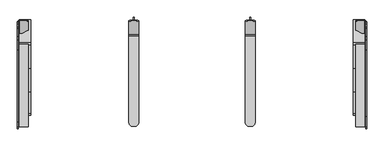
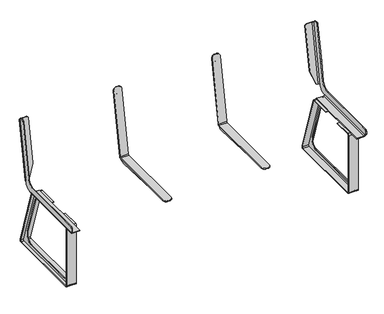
"""IFC4 building model written with IfcOpenShell, lengths in millimetres: furniture geometry, Roros Produkter - Trend - Bench - Backrest - 32982 : Roros Produkter - Trend - Bench - Backrest - 32982."""

from ifc_helpers import new_model, si_unit, point, frame, frame_2d, origin, place, context, project, spatial, polyline, circle_curve, trimmed, segment, composite_curve, outline, extrude, source, transform, mapped, element, save
from ifc_brep_helpers import plane_surface, cylinder_surface, revolved_surface, advanced_brep


def furniture_aa3bec5c(model_context):
    return source(origin(), model_context, "Body", "SolidModel", [
        advanced_brep(
        [(-277.8, 170.6061321, 420.4221109), (-277.8, 164.6972856, 415.464), (-277.8, -286.9117181, 415.464), (-277.8, -286.9117181, 411.464), (-277.8, 168.8927837, 411.464), (-277.8, 173.8168225, 415.5957591), (-277.8, 242.3218103, 804.1068511), (-277.8, 238.3825793, 804.8014438), (-327.8, 173.8168225, 415.5957591), (-327.8, 168.8927837, 411.464), (-327.8, -286.9117181, 411.464), (-327.8, -286.9117181, 415.464), (-327.8, 164.6972856, 415.464), (-327.8, 170.6061321, 420.4221109), (-327.8, 238.3825793, 804.8014438), (-327.8, 242.3218103, 804.1068511), (-307.8, 245.7947739, 823.8030062), (-297.8, 245.7947739, 823.8030062), (-297.8, 241.8555429, 824.4975989), (-307.8, 241.8555429, 824.4975989), (-307.8, -306.9117181, 415.464), (-297.8, -306.9117181, 415.464), (-297.8, -306.9117181, 411.464), (-307.8, -306.9117181, 411.464)],
        [
            (0, 1, circle_curve(frame((-277.8, 164.6972856, 421.464), z_axis=(-1.0, 0.0, 0.0), x_axis=(0.0, -1.0, 0.0)), 6.0)),
            (1, 2),
            (2, 3),
            (3, 4),
            (4, 5, circle_curve(frame((-277.8, 168.8927837, 416.464), z_axis=(1.0, 0.0, 0.0), x_axis=(0.0, 0.6427876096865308, -0.7660444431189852)), 5.0)),
            (5, 6),
            (6, 7),
            (7, 0),
            (8, 9, circle_curve(frame((-327.8, 168.8927837, 416.464), z_axis=(-1.0, 0.0, 0.0), x_axis=(0.0, 0.6427876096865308, -0.7660444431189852)), 5.0)),
            (9, 10),
            (10, 11),
            (11, 12),
            (12, 13, circle_curve(frame((-327.8, 164.6972856, 421.464), z_axis=(1.0, 0.0, 0.0), x_axis=(0.0, -1.0, 0.0)), 6.0)),
            (13, 14),
            (14, 15),
            (15, 8),
            (5, 8),
            (15, 16, circle_curve(frame((-307.8, 242.3218103, 804.1068511), z_axis=(0.0, 0.9848077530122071, -0.173648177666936), x_axis=(0.0, 0.173648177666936, 0.9848077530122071)), 20.0)),
            (16, 17),
            (17, 6, circle_curve(frame((-297.8, 242.3218103, 804.1068511), z_axis=(0.0, 0.9848077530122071, -0.173648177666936), x_axis=(0.0, 0.173648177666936, 0.9848077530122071)), 20.0)),
            (13, 0),
            (7, 18, circle_curve(frame((-297.8, 238.3825793, 804.8014438), z_axis=(0.0, -0.9848077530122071, 0.173648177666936), x_axis=(0.0, 0.173648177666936, 0.9848077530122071)), 20.0)),
            (18, 19),
            (19, 14, circle_curve(frame((-307.8, 238.3825793, 804.8014438), z_axis=(0.0, -0.9848077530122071, 0.173648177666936), x_axis=(0.0, 0.173648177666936, 0.9848077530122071)), 20.0)),
            (12, 1),
            (11, 20, circle_curve(frame((-307.8, -286.9117181, 415.464), z_axis=(0.0, 0.0, 1.0), x_axis=(1.0, 0.0, 0.0)), 20.0)),
            (20, 21),
            (21, 2, circle_curve(frame((-297.8, -286.9117181, 415.464), z_axis=(0.0, 0.0, 1.0), x_axis=(1.0, 0.0, 0.0)), 20.0)),
            (9, 4),
            (3, 22, circle_curve(frame((-297.8, -286.9117181, 411.464), z_axis=(0.0, 0.0, -1.0), x_axis=(1.0, 0.0, 0.0)), 20.0)),
            (22, 23),
            (23, 10, circle_curve(frame((-307.8, -286.9117181, 411.464), z_axis=(0.0, 0.0, -1.0), x_axis=(1.0, 0.0, 0.0)), 20.0)),
            (18, 17),
            (16, 19),
            (22, 21),
            (20, 23),
        ],
        [
            plane_surface(frame((-277.8, 211.9142087, 631.6567726), z_axis=(1.0000000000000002, 0.0, 0.0), x_axis=(0.0, 0.17364817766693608, 0.9848077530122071))),
            plane_surface(frame((-327.8, 211.9142087, 631.6567726), z_axis=(-1.0000000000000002, 0.0, 0.0), x_axis=(0.0, -0.17364817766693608, -0.9848077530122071))),
            plane_surface(frame((-277.8, 173.8168225, 415.5957591), z_axis=(0.0, 0.9848077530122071, -0.17364817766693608), x_axis=(-1.0, 0.0, 0.0))),
            plane_surface(frame((-277.8, 242.8199075, 829.9667823), z_axis=(0.0, -0.9848077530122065, 0.1736481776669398), x_axis=(-1.0, 0.0, 0.0))),
            revolved_surface(polyline([(-327.8, 158.6972856, 421.464), (-277.8, 158.6972856, 421.464)]), (-327.8, 164.6972856, 421.464), (-1.0, 0.0, 0.0)),
            plane_surface(frame((-277.8, 164.6972856, 415.464), z_axis=(0.0, 0.0, 1.0), x_axis=(-1.0, 0.0, 0.0))),
            plane_surface(frame((-277.8, -312.0803438, 411.464), z_axis=(0.0, 0.0, -1.0), x_axis=(-1.0, 0.0, 0.0))),
            cylinder_surface(frame((-327.8, 168.8927837, 416.464), z_axis=(1.0, 0.0, 0.0), x_axis=(0.0, 0.6427876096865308, -0.7660444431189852)), 5.0),
            plane_surface(frame((-297.8, 251.6807108, 822.7651567), z_axis=(0.0, 0.17364817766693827, 0.9848077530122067), x_axis=(0.0, -0.9848077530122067, 0.17364817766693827))),
            cylinder_surface(frame((-307.8, 231.891661, 805.9459679), z_axis=(0.0, -0.9848077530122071, 0.173648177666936), x_axis=(0.0, 0.173648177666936, 0.9848077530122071)), 20.0),
            cylinder_surface(frame((-297.8, 231.891661, 805.9459679), z_axis=(0.0, -0.9848077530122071, 0.173648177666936), x_axis=(0.0, 0.173648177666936, 0.9848077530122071)), 20.0),
            plane_surface(frame((-297.8, -306.9117181, 428.6260903), z_axis=(0.0, -1.0, 0.0), x_axis=(0.0, 0.0, -1.0))),
            cylinder_surface(frame((-307.8, -286.9117181, 406.264), z_axis=(0.0, 0.0, -1.0), x_axis=(1.0, 0.0, 0.0)), 20.0),
            cylinder_surface(frame((-297.8, -286.9117181, 406.264), z_axis=(0.0, 0.0, -1.0), x_axis=(1.0, 0.0, 0.0)), 20.0),
        ],
        [
            (0, [[1, 2, 3, 4, 5, 6, 7, 8]]),
            (1, [[9, 10, 11, 12, 13, 14, 15, 16]]),
            (2, [[17, -16, 18, 19, 20, -6]]),
            (3, [[21, -8, 22, 23, 24, -14]]),
            (4, [[-1, -21, -13, 25]]),
            (5, [[-25, -12, 26, 27, 28, -2]]),
            (6, [[29, -4, 30, 31, 32, -10]]),
            (7, [[-5, -29, -9, -17]]),
            (8, [[33, -19, 34, -23]]),
            (9, [[-34, -18, -15, -24]]),
            (10, [[-33, -22, -7, -20]]),
            (11, [[35, -27, 36, -31]]),
            (12, [[-36, -26, -11, -32]]),
            (13, [[-35, -30, -3, -28]]),
        ],
    ),
        advanced_brep(
        [(277.8, 173.8168225, 415.5957591), (277.8, 168.8927837, 411.464), (277.8, -286.9117181, 411.464), (277.8, -286.9117181, 415.464), (277.8, 164.6972856, 415.464), (277.8, 170.6061321, 420.4221109), (277.8, 238.3825793, 804.8014438), (277.8, 242.3218103, 804.1068511), (327.8, 170.6061321, 420.4221109), (327.8, 164.6972856, 415.464), (327.8, -286.9117181, 415.464), (327.8, -286.9117181, 411.464), (327.8, 168.8927837, 411.464), (327.8, 173.8168225, 415.5957591), (327.8, 242.3218103, 804.1068511), (327.8, 238.3825793, 804.8014438), (297.8, 245.7947739, 823.8030062), (307.8, 245.7947739, 823.8030062), (307.8, 241.8555429, 824.4975989), (297.8, 241.8555429, 824.4975989), (297.8, -306.9117181, 415.464), (307.8, -306.9117181, 415.464), (307.8, -306.9117181, 411.464), (297.8, -306.9117181, 411.464)],
        [
            (0, 1, circle_curve(frame((277.8, 168.8927837, 416.464), z_axis=(-1.0, 0.0, 0.0), x_axis=(0.0, 0.6427876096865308, -0.7660444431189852)), 5.0)),
            (1, 2),
            (2, 3),
            (3, 4),
            (4, 5, circle_curve(frame((277.8, 164.6972856, 421.464), z_axis=(1.0, 0.0, 0.0), x_axis=(0.0, -1.0, 0.0)), 6.0)),
            (5, 6),
            (6, 7),
            (7, 0),
            (8, 9, circle_curve(frame((327.8, 164.6972856, 421.464), z_axis=(-1.0, 0.0, 0.0), x_axis=(0.0, -1.0, 0.0)), 6.0)),
            (9, 10),
            (10, 11),
            (11, 12),
            (12, 13, circle_curve(frame((327.8, 168.8927837, 416.464), z_axis=(1.0, 0.0, 0.0), x_axis=(0.0, 0.6427876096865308, -0.7660444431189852)), 5.0)),
            (13, 14),
            (14, 15),
            (15, 8),
            (13, 0),
            (7, 16, circle_curve(frame((297.8, 242.3218103, 804.1068511), z_axis=(0.0, 0.9848077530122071, -0.173648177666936), x_axis=(0.0, 0.173648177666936, 0.9848077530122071)), 20.0)),
            (16, 17),
            (17, 14, circle_curve(frame((307.8, 242.3218103, 804.1068511), z_axis=(0.0, 0.9848077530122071, -0.173648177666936), x_axis=(0.0, 0.173648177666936, 0.9848077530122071)), 20.0)),
            (5, 8),
            (15, 18, circle_curve(frame((307.8, 238.3825793, 804.8014438), z_axis=(0.0, -0.9848077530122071, 0.173648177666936), x_axis=(0.0, 0.173648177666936, 0.9848077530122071)), 20.0)),
            (18, 19),
            (19, 6, circle_curve(frame((297.8, 238.3825793, 804.8014438), z_axis=(0.0, -0.9848077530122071, 0.173648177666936), x_axis=(0.0, 0.173648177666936, 0.9848077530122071)), 20.0)),
            (4, 9),
            (3, 20, circle_curve(frame((297.8, -286.9117181, 415.464), z_axis=(0.0, 0.0, 1.0), x_axis=(-1.0, 0.0, 0.0)), 20.0)),
            (20, 21),
            (21, 10, circle_curve(frame((307.8, -286.9117181, 415.464), z_axis=(0.0, 0.0, 1.0), x_axis=(-1.0, 0.0, 0.0)), 20.0)),
            (1, 12),
            (11, 22, circle_curve(frame((307.8, -286.9117181, 411.464), z_axis=(0.0, 0.0, -1.0), x_axis=(-1.0, 0.0, 0.0)), 20.0)),
            (22, 23),
            (23, 2, circle_curve(frame((297.8, -286.9117181, 411.464), z_axis=(0.0, 0.0, -1.0), x_axis=(-1.0, 0.0, 0.0)), 20.0)),
            (18, 17),
            (16, 19),
            (22, 21),
            (20, 23),
        ],
        [
            plane_surface(frame((277.8, 172.1067218, 412.6337778), z_axis=(-1.0, 0.0, 0.0), x_axis=(0.0, -0.7660444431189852, -0.6427876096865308))),
            plane_surface(frame((327.8, 172.1067218, 412.6337778), z_axis=(1.0, 0.0, 0.0), x_axis=(0.0, 0.7660444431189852, 0.6427876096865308))),
            plane_surface(frame((277.8, 246.7591385, 829.2721896), z_axis=(0.0, 0.9848077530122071, -0.17364817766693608), x_axis=(1.0, 0.0, 0.0))),
            plane_surface(frame((277.8, 170.6061321, 420.4221109), z_axis=(0.0, -0.9848077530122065, 0.1736481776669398), x_axis=(1.0, 0.0, 0.0))),
            revolved_surface(polyline([(327.8, 158.6972856, 421.464), (277.8, 158.6972856, 421.464)]), (327.8, 164.6972856, 421.464), (1.0, 0.0, 0.0)),
            plane_surface(frame((277.8, -312.0803438, 415.464), z_axis=(0.0, 0.0, 1.0), x_axis=(1.0, 0.0, 0.0))),
            plane_surface(frame((277.8, 168.8927837, 411.464), z_axis=(0.0, 0.0, -1.0), x_axis=(1.0, 0.0, 0.0))),
            cylinder_surface(frame((327.8, 168.8927837, 416.464), z_axis=(-1.0, 0.0, 0.0), x_axis=(0.0, 0.6427876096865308, -0.7660444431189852)), 5.0),
            plane_surface(frame((307.8, 251.6807108, 822.7651567), z_axis=(0.0, 0.17364817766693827, 0.9848077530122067), x_axis=(0.0, -0.9848077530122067, 0.17364817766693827))),
            cylinder_surface(frame((307.8, 231.891661, 805.9459679), z_axis=(0.0, -0.9848077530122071, 0.173648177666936), x_axis=(0.0, 0.173648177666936, 0.9848077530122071)), 20.0),
            cylinder_surface(frame((297.8, 231.891661, 805.9459679), z_axis=(0.0, -0.9848077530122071, 0.173648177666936), x_axis=(0.0, 0.173648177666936, 0.9848077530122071)), 20.0),
            plane_surface(frame((307.8, -306.9117181, 428.6260903), z_axis=(0.0, -1.0, 0.0), x_axis=(0.0, 0.0, -1.0))),
            cylinder_surface(frame((307.8, -286.9117181, 406.264), z_axis=(0.0, 0.0, -1.0), x_axis=(-1.0, 0.0, 0.0)), 20.0),
            cylinder_surface(frame((297.8, -286.9117181, 406.264), z_axis=(0.0, 0.0, -1.0), x_axis=(-1.0, 0.0, 0.0)), 20.0),
        ],
        [
            (0, [[1, 2, 3, 4, 5, 6, 7, 8]]),
            (1, [[9, 10, 11, 12, 13, 14, 15, 16]]),
            (2, [[17, -8, 18, 19, 20, -14]]),
            (3, [[21, -16, 22, 23, 24, -6]]),
            (4, [[-5, 25, -9, -21]]),
            (5, [[-25, -4, 26, 27, 28, -10]]),
            (6, [[29, -12, 30, 31, 32, -2]]),
            (7, [[-1, -17, -13, -29]]),
            (8, [[33, -19, 34, -23]]),
            (9, [[-33, -22, -15, -20]]),
            (10, [[-34, -18, -7, -24]]),
            (11, [[35, -27, 36, -31]]),
            (12, [[-35, -30, -11, -28]]),
            (13, [[-36, -26, -3, -32]]),
        ],
    ),
        extrude(outline(composite_curve([segment(trimmed(circle_curve(frame_2d((179.0736722, 396.147219)), 30.0), [point((208.7798444, 391.9587426))], [point((177.7650906, 366.1757724))], False, "CARTESIAN"), True, "CONTINUOUS"), segment(polyline([(177.7650906, 366.1757724), (-267.7841058, 385.6288704)]), True, "CONTINUOUS"), segment(trimmed(circle_curve(frame_2d((-266.9117181, 405.6098348)), 20.0), [point((-267.7841058, 385.6288704))], [point((-286.9117181, 405.6098348))], False, "CARTESIAN"), True, "CONTINUOUS"), segment(polyline([(-286.9117181, 405.6098348), (-286.9117181, 411.464), (-282.6167614, 411.464), (-80.2604266, 411.464), (168.8927837, 411.464)]), True, "CONTINUOUS"), segment(trimmed(circle_curve(frame_2d((168.8927837, 416.464)), 5.0), [point((168.8927837, 411.464))], [point((173.8168225, 415.5957591))], True, "CARTESIAN"), True, "CONTINUOUS"), segment(polyline([(173.8168225, 415.5957591), (211.9142087, 631.6567726), (237.5075996, 776.8041052), (243.3935365, 775.7662557)]), True, "CONTINUOUS"), segment(trimmed(circle_curve(frame_2d((239.9205729, 756.0701006)), 20.0), [point((243.3935365, 775.7662557))], [point((259.7246877, 753.277783))], False, "CARTESIAN"), True, "CONTINUOUS"), segment(polyline([(259.7246877, 753.277783), (208.7798444, 391.9587426)]), True, "CONTINUOUS")], self_intersect=False)), frame((300.6, 0.0, 0.0), z_axis=(1.0, 0.0, 0.0), x_axis=(0.0, 1.0, 0.0)), (0.0, 0.0, 1.0), 4.4),
        extrude(outline(composite_curve([segment(trimmed(circle_curve(frame_2d((179.0736722, 396.147219)), 30.0), [point((208.7798444, 391.9587426))], [point((177.7650906, 366.1757724))], False, "CARTESIAN"), True, "CONTINUOUS"), segment(polyline([(177.7650906, 366.1757724), (-267.7841058, 385.6288704)]), True, "CONTINUOUS"), segment(trimmed(circle_curve(frame_2d((-266.9117181, 405.6098348)), 20.0), [point((-267.7841058, 385.6288704))], [point((-286.9117181, 405.6098348))], False, "CARTESIAN"), True, "CONTINUOUS"), segment(polyline([(-286.9117181, 405.6098348), (-286.9117181, 411.464), (-282.6167614, 411.464), (-80.2604266, 411.464), (168.8927837, 411.464)]), True, "CONTINUOUS"), segment(trimmed(circle_curve(frame_2d((168.8927837, 416.464)), 5.0), [point((168.8927837, 411.464))], [point((173.8168225, 415.5957591))], True, "CARTESIAN"), True, "CONTINUOUS"), segment(polyline([(173.8168225, 415.5957591), (211.9142087, 631.6567726), (237.5075996, 776.8041052), (243.3935365, 775.7662557)]), True, "CONTINUOUS"), segment(trimmed(circle_curve(frame_2d((239.9205729, 756.0701006)), 20.0), [point((243.3935365, 775.7662557))], [point((259.7246877, 753.277783))], False, "CARTESIAN"), True, "CONTINUOUS"), segment(polyline([(259.7246877, 753.277783), (208.7798444, 391.9587426)]), True, "CONTINUOUS")], self_intersect=False)), frame((-305.0, 0.0, 0.0), z_axis=(1.0, 0.0, 0.0), x_axis=(0.0, 1.0, 0.0)), (0.0, 0.0, 1.0), 4.4),
        advanced_brep(
        [(904.0, -307.8308404, 421.464), (898.0, -307.8308404, 415.464), (853.0, -307.8308404, 415.464), (853.0, -307.8308404, 411.464), (898.0, -307.8308404, 411.464), (908.0, -307.8308404, 421.464), (908.0, -307.8308404, 421.664), (904.0, -307.8308404, 421.664), (908.0, 121.742304, 421.464), (898.0, 121.742304, 411.464), (853.0, 121.742304, 411.464), (853.0, 121.742304, 415.464), (898.0, 121.742304, 415.464), (904.0, 121.742304, 421.464), (904.0, 121.742304, 421.664), (908.0, 121.742304, 421.664), (904.0, -255.6830947, 457.464), (904.0, -307.8308404, 457.464), (908.0, -307.8308404, 457.464), (908.0, -255.6830947, 457.464), (904.0, -317.8308404, 447.464), (908.0, -317.8308404, 447.464), (904.0, -317.8308404, 431.664), (908.0, -317.8308404, 431.664), (904.0, 123.242304, 421.664), (908.0, 123.242304, 421.664), (904.0, 171.5252579, 461.3391091), (908.0, 171.5252579, 461.3391091), (904.0, 171.7857301, 462.8163208), (908.0, 171.7857301, 462.8163208), (904.0, 235.6598072, 825.064213), (904.0, 227.5482115, 836.6487723), (908.0, 227.5482115, 836.6487723), (908.0, 235.6598072, 825.064213), (904.0, 211.988249, 839.3924135), (908.0, 211.988249, 839.3924135), (904.0, 200.4036897, 831.2808178), (908.0, 200.4036897, 831.2808178), (904.0, 161.9252917, 613.0589787), (908.0, 161.9252917, 613.0589787), (904.0, 141.775105, 498.7815911), (908.0, 141.775105, 498.7815911), (904.0, 92.5347173, 457.464), (908.0, 92.5347173, 457.464), (898.0, 241.7656153, 823.9875943), (904.0, 235.8567688, 825.0294834), (908.0, 235.8567688, 825.0294834), (898.0, 245.7048463, 823.2930016), (863.0, 245.7048463, 823.2930016), (863.0, 241.7656153, 823.9875943), (898.0, 181.8307692, 461.0451093), (908.0, 171.9826917, 462.7815911), (904.0, 171.9826917, 462.7815911), (898.0, 177.8915382, 461.7397021), (892.7989561, 177.8915382, 461.7397021), (892.7989561, 181.8307692, 461.0451093), (853.0, 240.0291335, 814.1395168), (853.0, 193.8264376, 552.1110073), (853.6045066, 193.2318427, 548.7388923), (883.4034627, 179.0334251, 468.2156645), (853.0, 243.9683646, 813.4449241), (853.0, 197.7656686, 551.4164146), (883.4034627, 182.9726561, 467.5210718), (853.6045066, 197.1710737, 548.0442996)],
        [
            (0, 1, circle_curve(frame((898.0, -307.8308404, 421.464), z_axis=(0.0, 1.0, 0.0), x_axis=(-1.0, 0.0, 0.0)), 6.0)),
            (1, 2),
            (2, 3),
            (3, 4),
            (4, 5, circle_curve(frame((898.0, -307.8308404, 421.464), z_axis=(0.0, -1.0, 0.0), x_axis=(-1.0, 0.0, 0.0)), 10.0)),
            (5, 6),
            (6, 7),
            (7, 0),
            (8, 9, circle_curve(frame((898.0, 121.742304, 421.464), z_axis=(0.0, 1.0, 0.0), x_axis=(-1.0, 0.0, 0.0)), 10.0)),
            (9, 10),
            (10, 11),
            (11, 12),
            (12, 13, circle_curve(frame((898.0, 121.742304, 421.464), z_axis=(0.0, -1.0, 0.0), x_axis=(-1.0, 0.0, 0.0)), 6.0)),
            (13, 14),
            (14, 15),
            (15, 8),
            (4, 9),
            (8, 5),
            (3, 10),
            (2, 11),
            (1, 12),
            (0, 13),
            (16, 17),
            (17, 18),
            (18, 19),
            (19, 16),
            (17, 20, circle_curve(frame((904.0, -307.8308404, 447.464), z_axis=(1.0, 0.0, 0.0), x_axis=(0.0, -1.0, 0.0)), 10.0)),
            (20, 21),
            (21, 18, circle_curve(frame((908.0, -307.8308404, 447.464), z_axis=(-1.0, 0.0, 0.0), x_axis=(0.0, -1.0, 0.0)), 10.0)),
            (20, 22),
            (22, 23),
            (23, 21),
            (22, 7, circle_curve(frame((904.0, -307.8308404, 431.664), z_axis=(1.0, 0.0, 0.0), x_axis=(0.0, -0.7071067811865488, -0.7071067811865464)), 10.0)),
            (6, 23, circle_curve(frame((908.0, -307.8308404, 431.664), z_axis=(-1.0, 0.0, 0.0), x_axis=(0.0, -0.7071067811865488, -0.7071067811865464)), 10.0)),
            (14, 24),
            (24, 25),
            (25, 15),
            (24, 26, circle_curve(frame((904.0, 122.6020398, 471.6599004), z_axis=(1.0, 0.0, 0.0), x_axis=(0.0, -0.9784643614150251, 0.20641582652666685)), 50.0)),
            (26, 27),
            (27, 25, circle_curve(frame((908.0, 122.6020398, 471.6599004), z_axis=(-1.0, 0.0, 0.0), x_axis=(0.0, -0.9784643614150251, 0.20641582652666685)), 50.0)),
            (26, 28),
            (28, 29),
            (29, 27),
            (30, 31, circle_curve(frame((904.0, 225.8117297, 826.8006948), z_axis=(1.0, 0.0, 0.0), x_axis=(0.0, 0.8191520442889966, 0.5735764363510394)), 10.0)),
            (31, 32),
            (32, 33, circle_curve(frame((908.0, 225.8117297, 826.8006948), z_axis=(-1.0, 0.0, 0.0), x_axis=(0.0, 0.8191520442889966, 0.5735764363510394)), 10.0)),
            (33, 30),
            (31, 34),
            (34, 35),
            (35, 32),
            (34, 36, circle_curve(frame((904.0, 210.2517672, 829.544336), z_axis=(1.0, 0.0, 0.0), x_axis=(0.0, -0.9848077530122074, 0.17364817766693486)), 10.0)),
            (36, 37),
            (37, 35, circle_curve(frame((908.0, 210.2517672, 829.544336), z_axis=(-1.0, 0.0, 0.0), x_axis=(0.0, -0.9848077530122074, 0.17364817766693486)), 10.0)),
            (36, 38),
            (38, 39),
            (39, 37),
            (38, 40),
            (40, 41),
            (41, 39),
            (40, 42, circle_curve(frame((904.0, 92.5347173, 507.464), z_axis=(-1.0, 0.0, 0.0), x_axis=(0.0, -0.9848077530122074, 0.17364817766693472)), 50.0)),
            (42, 43),
            (43, 41, circle_curve(frame((908.0, 92.5347173, 507.464), z_axis=(1.0, 0.0, 0.0), x_axis=(0.0, -0.9848077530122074, 0.17364817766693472)), 50.0)),
            (42, 16),
            (19, 43),
            (44, 45, circle_curve(frame((898.0, 235.8567688, 825.0294834), z_axis=(0.0, -0.1736481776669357, -0.9848077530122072), x_axis=(0.0, 0.9848077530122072, -0.1736481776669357)), 6.0)),
            (45, 30),
            (33, 46),
            (46, 47, circle_curve(frame((898.0, 235.8567688, 825.0294834), z_axis=(0.0, 0.1736481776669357, 0.9848077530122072), x_axis=(0.0, 0.9848077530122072, -0.1736481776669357)), 10.0)),
            (47, 48),
            (48, 49),
            (49, 44),
            (50, 51, circle_curve(frame((898.0, 171.9826917, 462.7815911), z_axis=(0.0, -0.1736481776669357, -0.9848077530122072), x_axis=(0.0, 0.9848077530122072, -0.1736481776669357)), 10.0)),
            (51, 29),
            (28, 52),
            (52, 53, circle_curve(frame((898.0, 171.9826917, 462.7815911), z_axis=(0.0, 0.1736481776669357, 0.9848077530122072), x_axis=(0.0, 0.9848077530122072, -0.1736481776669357)), 6.0)),
            (53, 54),
            (54, 55),
            (55, 50),
            (46, 51),
            (50, 47),
            (45, 52),
            (44, 53),
            (49, 56, circle_curve(frame((863.0, 240.0291335, 814.1395168), z_axis=(0.0, -0.9848077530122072, 0.1736481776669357), x_axis=(1.0, 0.0, 0.0)), 10.0)),
            (56, 57),
            (57, 58, circle_curve(frame((863.0, 193.8264376, 552.1110073), z_axis=(0.0, -0.9848077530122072, 0.1736481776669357), x_axis=(1.0, 0.0, 0.0)), 10.0)),
            (58, 59),
            (59, 54, circle_curve(frame((892.7989561, 179.62802, 471.5877796), z_axis=(0.0, -0.9848077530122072, 0.1736481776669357), x_axis=(1.0, 0.0, 0.0)), 10.0)),
            (56, 60),
            (60, 61),
            (61, 57),
            (55, 62, circle_curve(frame((892.7989561, 183.567251, 470.8931869), z_axis=(0.0, 0.9848077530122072, -0.1736481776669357), x_axis=(1.0, 0.0, 0.0)), 10.0)),
            (62, 63),
            (63, 61, circle_curve(frame((863.0, 197.7656686, 551.4164146), z_axis=(0.0, 0.9848077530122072, -0.1736481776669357), x_axis=(1.0, 0.0, 0.0)), 10.0)),
            (60, 48, circle_curve(frame((863.0, 243.9683646, 813.4449241), z_axis=(0.0, 0.9848077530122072, -0.1736481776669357), x_axis=(1.0, 0.0, 0.0)), 10.0)),
            (59, 62),
            (58, 63),
        ],
        [
            plane_surface(frame((904.0, -307.8308404, 421.664), z_axis=(0.0, -1.0, 0.0), x_axis=(0.0, 0.0, -1.0))),
            plane_surface(frame((904.0, 121.742304, 421.664), z_axis=(0.0, 1.0, 0.0), x_axis=(0.0, 0.0, 1.0))),
            cylinder_surface(frame((898.0, 121.742304, 421.464), z_axis=(0.0, -1.0, 0.0), x_axis=(-1.0, 0.0, 0.0)), 10.0),
            plane_surface(frame((853.0, -307.8308404, 411.464), z_axis=(0.0, 0.0, -1.0), x_axis=(0.0, 1.0, 0.0))),
            plane_surface(frame((853.0, -307.8308404, 415.464), z_axis=(-1.0, 0.0, 0.0), x_axis=(0.0, 1.0, 0.0))),
            plane_surface(frame((898.0, -307.8308404, 415.464), z_axis=(0.0, 0.0, 1.0), x_axis=(0.0, 1.0, 0.0))),
            revolved_surface(polyline([(892.0, 121.742304, 421.464), (892.0, -307.8308404, 421.464)]), (898.0, 121.742304, 421.464), (0.0, 1.0, 0.0)),
            plane_surface(frame((904.0, -307.8308404, 457.464), z_axis=(0.0, 0.0, 1.0), x_axis=(1.0, 0.0, 0.0))),
            cylinder_surface(frame((908.0, -307.8308404, 447.464), z_axis=(-1.0, 0.0, 0.0), x_axis=(0.0, -1.0, 0.0)), 10.0),
            plane_surface(frame((904.0, -317.8308404, 431.664), z_axis=(0.0, -1.0, 0.0), x_axis=(1.0, 0.0, 0.0))),
            cylinder_surface(frame((908.0, -307.8308404, 431.664), z_axis=(-1.0, 0.0, 0.0), x_axis=(0.0, -0.7071067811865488, -0.7071067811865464)), 10.0),
            plane_surface(frame((904.0, 123.242304, 421.664), z_axis=(0.0, 0.0, -1.0), x_axis=(1.0, 0.0, 0.0))),
            cylinder_surface(frame((908.0, 122.6020398, 471.6599004), z_axis=(-1.0, 0.0, 0.0), x_axis=(0.0, -0.9784643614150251, 0.20641582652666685)), 50.0),
            plane_surface(frame((904.0, 171.7857301, 462.8163208), z_axis=(0.0, 0.9848077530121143, -0.1736481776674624), x_axis=(1.0, 0.0, 0.0))),
            cylinder_surface(frame((908.0, 225.8117297, 826.8006948), z_axis=(-1.0000000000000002, 0.0, 0.0), x_axis=(0.0, 0.8191520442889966, 0.5735764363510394)), 10.0),
            plane_surface(frame((904.0, 211.988249, 839.3924135), z_axis=(0.0, 0.1736481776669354, 0.9848077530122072), x_axis=(1.0, 0.0, 0.0))),
            cylinder_surface(frame((908.0, 210.2517672, 829.544336), z_axis=(-1.0000000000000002, 0.0, 0.0), x_axis=(0.0, -0.9848077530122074, 0.17364817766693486)), 10.0),
            plane_surface(frame((904.0, 161.9252917, 613.0589787), z_axis=(0.0, -0.9848077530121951, 0.17364817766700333), x_axis=(1.0, 0.0, 0.0))),
            plane_surface(frame((904.0, 141.775105, 498.7815911), z_axis=(0.0, -0.9848077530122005, 0.1736481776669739), x_axis=(1.0, 0.0, 0.0))),
            revolved_surface(polyline([(908.0, 43.29432964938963, 516.1464088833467), (904.0, 43.29432964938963, 516.1464088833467)]), (908.0, 92.5347173, 507.464), (1.0, 0.0, 0.0)),
            plane_surface(frame((904.0, -255.6830947, 457.464), z_axis=(0.0, 0.0, 1.0), x_axis=(1.0, 0.0, 0.0))),
            plane_surface(frame((853.0, 245.7048463, 823.2930016), z_axis=(0.0, 0.1736481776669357, 0.9848077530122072), x_axis=(-1.0, 0.0, 0.0))),
            plane_surface(frame((853.0, 181.8307692, 461.0451093), z_axis=(0.0, -0.1736481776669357, -0.9848077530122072), x_axis=(1.0, 0.0, 0.0))),
            cylinder_surface(frame((898.0, 171.9826917, 462.7815911), z_axis=(0.0, 0.1736481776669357, 0.9848077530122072), x_axis=(0.0, 0.9848077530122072, -0.1736481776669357)), 10.0),
            plane_surface(frame((908.0, 219.7091835, 827.8767384), z_axis=(1.0000000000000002, 0.0, 0.0), x_axis=(0.0, -0.1736481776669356, -0.9848077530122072))),
            plane_surface(frame((904.0, 235.8567688, 825.0294834), z_axis=(-1.0000000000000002, 0.0, 0.0), x_axis=(0.0, -0.17364817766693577, -0.9848077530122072))),
            revolved_surface(polyline([(898.0, 177.89153821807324, 461.7397020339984), (898.0, 241.76561533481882, 823.9875943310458)]), (898.0, 171.9826917, 462.7815911), (0.0, -0.1736481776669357, -0.9848077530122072)),
            plane_surface(frame((853.0, 241.7656153, 823.9875943), z_axis=(0.0, -0.9848077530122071, 0.17364817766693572), x_axis=(0.0, -0.17364817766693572, -0.9848077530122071))),
            plane_surface(frame((853.0, 245.7048463, 823.2930016), z_axis=(-1.0, 0.0, 0.0), x_axis=(0.0, -0.17364817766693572, -0.9848077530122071))),
            plane_surface(frame((898.0, 245.7048463, 823.2930016), z_axis=(0.0, 0.9848077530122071, -0.17364817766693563), x_axis=(0.0, -0.17364817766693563, -0.9848077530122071))),
            cylinder_surface(frame((892.7989561, 173.5222119, 472.6643983), z_axis=(0.0, -0.9848077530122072, 0.1736481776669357), x_axis=(1.0, 0.0, 0.0)), 10.0),
            plane_surface(frame((853.6045066, 212.8703774, 545.2760887), z_axis=(-0.9395493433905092, -0.0594594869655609, -0.3372115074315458), x_axis=(0.0, -0.9848077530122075, 0.1736481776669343))),
            cylinder_surface(frame((863.0, 187.7206295, 553.187626), z_axis=(0.0, -0.9848077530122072, 0.1736481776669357), x_axis=(1.0, 0.0, 0.0)), 10.0),
            cylinder_surface(frame((863.0, 233.9233255, 815.2161355), z_axis=(0.0, -0.9848077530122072, 0.1736481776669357), x_axis=(1.0, 0.0, 0.0)), 10.0),
        ],
        [
            (0, [[1, 2, 3, 4, 5, 6, 7, 8]]),
            (1, [[9, 10, 11, 12, 13, 14, 15, 16]]),
            (2, [[-5, 17, -9, 18]]),
            (3, [[-4, 19, -10, -17]]),
            (4, [[-3, 20, -11, -19]]),
            (5, [[-2, 21, -12, -20]]),
            (6, [[-1, 22, -13, -21]]),
            (7, [[23, 24, 25, 26]]),
            (8, [[27, 28, 29, -24]]),
            (9, [[30, 31, 32, -28]]),
            (10, [[33, -7, 34, -31]]),
            (11, [[35, 36, 37, -15]]),
            (12, [[38, 39, 40, -36]]),
            (13, [[41, 42, 43, -39]]),
            (14, [[44, 45, 46, 47]]),
            (15, [[48, 49, 50, -45]]),
            (16, [[51, 52, 53, -49]]),
            (17, [[54, 55, 56, -52]]),
            (18, [[57, 58, 59, -55]]),
            (19, [[60, 61, 62, -58]]),
            (20, [[63, -26, 64, -61]]),
            (21, [[65, 66, -47, 67, 68, 69, 70, 71]]),
            (22, [[72, 73, -42, 74, 75, 76, 77, 78]]),
            (23, [[-68, 79, -72, 80]]),
            (24, [[-79, -67, -46, -50, -53, -56, -59, -62, -64, -25, -29, -32, -34, -6, -18, -16, -37, -40, -43, -73]]),
            (25, [[81, -74, -41, -38, -35, -14, -22, -8, -33, -30, -27, -23, -63, -60, -57, -54, -51, -48, -44, -66]]),
            (26, [[-65, 82, -75, -81]]),
            (27, [[-82, -71, 83, 84, 85, 86, 87, -76]]),
            (28, [[-84, 88, 89, 90]]),
            (29, [[-80, -78, 91, 92, 93, -89, 94, -69]]),
            (30, [[95, -91, -77, -87]]),
            (31, [[-95, -86, 96, -92]]),
            (32, [[-96, -85, -90, -93]]),
            (33, [[-70, -94, -88, -83]]),
        ],
    ),
        extrude(outline(composite_curve([segment(trimmed(circle_curve(frame_2d((238.4053404, 31.7)), 6.0), [point((244.1116795, 33.554102))], [point((238.4053404, 25.7))], False, "CARTESIAN"), True, "CONTINUOUS"), segment(polyline([(238.4053404, 25.7), (-237.8308404, 25.7)]), True, "CONTINUOUS"), segment(trimmed(circle_curve(frame_2d((-237.8308404, 31.7)), 6.0), [point((-237.8308404, 25.7))], [point((-243.8308404, 31.7))], False, "CARTESIAN"), True, "CONTINUOUS"), segment(polyline([(-243.8308404, 31.7), (-243.8308404, 401.464)]), True, "CONTINUOUS"), segment(trimmed(circle_curve(frame_2d((-237.8308404, 401.464)), 6.0), [point((-243.8308404, 401.464))], [point((-237.8308404, 407.464))], False, "CARTESIAN"), True, "CONTINUOUS"), segment(polyline([(-237.8308404, 407.464), (-127.8308404, 407.464), (-127.8308404, 392.464), (-178.8308404, 392.464)]), True, "CONTINUOUS"), segment(trimmed(circle_curve(frame_2d((-178.8308404, 342.464)), 50.0), [point((-178.8308404, 392.464))], [point((-228.8308404, 342.464))], True, "CARTESIAN"), True, "CONTINUOUS"), segment(polyline([(-228.8308404, 342.464), (-228.8308404, 91.2638836)]), True, "CONTINUOUS"), segment(trimmed(circle_curve(frame_2d((-178.8308404, 91.2638836)), 50.0), [point((-228.8308404, 91.2638836))], [point((-178.8308404, 41.2638836))], True, "CARTESIAN"), True, "CONTINUOUS"), segment(polyline([(-178.8308404, 41.2638836), (157.0155902, 41.2638836)]), True, "CONTINUOUS"), segment(trimmed(circle_curve(frame_2d((157.0155902, 91.2638836)), 50.0), [point((157.0155902, 41.2638836))], [point((204.568416, 106.7147333))], True, "CARTESIAN"), True, "CONTINUOUS"), segment(polyline([(204.568416, 106.7147333), (123.0135722, 357.7147333)]), True, "CONTINUOUS"), segment(trimmed(circle_curve(frame_2d((75.4607464, 342.2638836)), 50.0), [point((123.0135722, 357.7147333))], [point((75.4607464, 392.2638836))], True, "CARTESIAN"), True, "CONTINUOUS"), segment(polyline([(75.4607464, 392.2638836), (-4.4728031, 392.2638836), (-4.4728031, 407.4638836), (118.2617716, 407.4638836)]), True, "CONTINUOUS"), segment(trimmed(circle_curve(frame_2d((118.2617716, 401.4638836)), 6.0), [point((118.2617716, 407.4638836))], [point((123.9681107, 403.3179856))], False, "CARTESIAN"), True, "CONTINUOUS"), segment(polyline([(123.9681107, 403.3179856), (244.1116795, 33.554102)]), True, "CONTINUOUS")], self_intersect=False)), frame((875.8, 0.0, 0.0), z_axis=(1.0, 0.0, 0.0), x_axis=(0.0, 1.0, 0.0)), (0.0, 0.0, 1.0), 4.0),
        extrude(outline(composite_curve([segment(trimmed(circle_curve(frame_2d((238.4053404, 31.7)), 10.0), [point((247.9159055, 34.7901699))], [point((238.4053404, 21.7))], False, "CARTESIAN"), True, "CONTINUOUS"), segment(polyline([(238.4053404, 21.7), (-237.8308404, 21.7)]), True, "CONTINUOUS"), segment(trimmed(circle_curve(frame_2d((-237.8308404, 31.7)), 10.0), [point((-237.8308404, 21.7))], [point((-247.8308404, 31.7))], False, "CARTESIAN"), True, "CONTINUOUS"), segment(polyline([(-247.8308404, 31.7), (-247.8308404, 401.464)]), True, "CONTINUOUS"), segment(trimmed(circle_curve(frame_2d((-237.8308404, 401.464)), 10.0), [point((-247.8308404, 401.464))], [point((-237.8308404, 411.464))], False, "CARTESIAN"), True, "CONTINUOUS"), segment(polyline([(-237.8308404, 411.464), (-127.8308404, 411.464), (-127.8308404, 407.464), (-237.8308404, 407.464)]), True, "CONTINUOUS"), segment(trimmed(circle_curve(frame_2d((-237.8308404, 401.464)), 6.0), [point((-237.8308404, 407.464))], [point((-243.8308404, 401.464))], True, "CARTESIAN"), True, "CONTINUOUS"), segment(polyline([(-243.8308404, 401.464), (-243.8308404, 31.7)]), True, "CONTINUOUS"), segment(trimmed(circle_curve(frame_2d((-237.8308404, 31.7)), 6.0), [point((-243.8308404, 31.7))], [point((-237.8308404, 25.7))], True, "CARTESIAN"), True, "CONTINUOUS"), segment(polyline([(-237.8308404, 25.7), (238.4053404, 25.7)]), True, "CONTINUOUS"), segment(trimmed(circle_curve(frame_2d((238.4053404, 31.7)), 6.0), [point((238.4053404, 25.7))], [point((244.1116795, 33.554102))], True, "CARTESIAN"), True, "CONTINUOUS"), segment(polyline([(244.1116795, 33.554102), (123.9681107, 403.3179856)]), True, "CONTINUOUS"), segment(trimmed(circle_curve(frame_2d((118.2617716, 401.4638836)), 6.0), [point((123.9681107, 403.3179856))], [point((118.2617716, 407.4638836))], True, "CARTESIAN"), True, "CONTINUOUS"), segment(polyline([(118.2617716, 407.4638836), (-4.4728031, 407.4638836), (-4.4728031, 411.4638836), (118.2617716, 411.4638836)]), True, "CONTINUOUS"), segment(trimmed(circle_curve(frame_2d((118.2617716, 401.4638836)), 10.0), [point((118.2617716, 411.4638836))], [point((127.7723368, 404.5540536))], False, "CARTESIAN"), True, "CONTINUOUS"), segment(polyline([(127.7723368, 404.5540536), (247.9159055, 34.7901699)]), True, "CONTINUOUS")], self_intersect=False)), frame((837.8, 0.0, 0.0), z_axis=(1.0, 0.0, 0.0), x_axis=(0.0, 1.0, 0.0)), (0.0, 0.0, 1.0), 60.0),
        advanced_brep(
        [(-908.0, -307.8308404, 421.464), (-898.0, -307.8308404, 411.464), (-853.0, -307.8308404, 411.464), (-853.0, -307.8308404, 415.464), (-898.0, -307.8308404, 415.464), (-904.0, -307.8308404, 421.464), (-904.0, -307.8308404, 421.664), (-908.0, -307.8308404, 421.664), (-904.0, 121.742304, 421.464), (-898.0, 121.742304, 415.464), (-853.0, 121.742304, 415.464), (-853.0, 121.742304, 411.464), (-898.0, 121.742304, 411.464), (-908.0, 121.742304, 421.464), (-908.0, 121.742304, 421.664), (-904.0, 121.742304, 421.664), (-904.0, -307.8308404, 457.464), (-904.0, -285.2540924, 457.464), (-908.0, -285.2540924, 457.464), (-908.0, -307.8308404, 457.464), (-904.0, -317.8308404, 447.464), (-908.0, -317.8308404, 447.464), (-904.0, -317.8308404, 431.664), (-908.0, -317.8308404, 431.664), (-904.0, 123.242304, 421.664), (-908.0, 123.242304, 421.664), (-904.0, 171.5252579, 461.3391091), (-908.0, 171.5252579, 461.3391091), (-904.0, 171.7857301, 462.8163208), (-908.0, 171.7857301, 462.8163208), (-904.0, 227.5482115, 836.6487723), (-904.0, 235.6598072, 825.064213), (-908.0, 235.6598072, 825.064213), (-908.0, 227.5482115, 836.6487723), (-904.0, 211.988249, 839.3924135), (-908.0, 211.988249, 839.3924135), (-904.0, 200.4036897, 831.2808178), (-908.0, 200.4036897, 831.2808178), (-904.0, 162.5921834, 616.8411096), (-908.0, 162.5921834, 616.8411096), (-904.0, 141.775105, 498.7815911), (-908.0, 141.775105, 498.7815911), (-904.0, 92.5347173, 457.464), (-908.0, 92.5347173, 457.464), (-898.0, 245.7048463, 823.2930016), (-908.0, 235.8567688, 825.0294834), (-904.0, 235.8567688, 825.0294834), (-898.0, 241.7656153, 823.9875943), (-863.0, 241.7656153, 823.9875943), (-863.0, 245.7048463, 823.2930016), (-898.0, 177.8915382, 461.7397021), (-904.0, 171.9826917, 462.7815911), (-908.0, 171.9826917, 462.7815911), (-898.0, 181.8307692, 461.0451093), (-892.7989561, 181.8307692, 461.0451093), (-892.7989561, 177.8915382, 461.7397021), (-883.4034627, 179.0334251, 468.2156645), (-853.6045066, 193.2318427, 548.7388923), (-853.0, 193.8264376, 552.1110073), (-853.0, 240.0291335, 814.1395168), (-853.0, 197.7656686, 551.4164146), (-853.0, 243.9683646, 813.4449241), (-853.6045066, 197.1710737, 548.0442996), (-883.4034627, 182.9726561, 467.5210718)],
        [
            (0, 1, circle_curve(frame((-898.0, -307.8308404, 421.464), z_axis=(0.0, -1.0, 0.0), x_axis=(1.0, 0.0, 0.0)), 10.0)),
            (1, 2),
            (2, 3),
            (3, 4),
            (4, 5, circle_curve(frame((-898.0, -307.8308404, 421.464), z_axis=(0.0, 1.0, 0.0), x_axis=(1.0, 0.0, 0.0)), 6.0)),
            (5, 6),
            (6, 7),
            (7, 0),
            (8, 9, circle_curve(frame((-898.0, 121.742304, 421.464), z_axis=(0.0, -1.0, 0.0), x_axis=(1.0, 0.0, 0.0)), 6.0)),
            (9, 10),
            (10, 11),
            (11, 12),
            (12, 13, circle_curve(frame((-898.0, 121.742304, 421.464), z_axis=(0.0, 1.0, 0.0), x_axis=(1.0, 0.0, 0.0)), 10.0)),
            (13, 14),
            (14, 15),
            (15, 8),
            (0, 13),
            (12, 1),
            (11, 2),
            (10, 3),
            (9, 4),
            (8, 5),
            (16, 17),
            (17, 18),
            (18, 19),
            (19, 16),
            (20, 16, circle_curve(frame((-904.0, -307.8308404, 447.464), z_axis=(-1.0, 0.0, 0.0), x_axis=(0.0, -1.0, 0.0)), 10.0)),
            (19, 21, circle_curve(frame((-908.0, -307.8308404, 447.464), z_axis=(1.0, 0.0, 0.0), x_axis=(0.0, -1.0, 0.0)), 10.0)),
            (21, 20),
            (22, 20),
            (21, 23),
            (23, 22),
            (6, 22, circle_curve(frame((-904.0, -307.8308404, 431.664), z_axis=(-1.0, 0.0, 0.0), x_axis=(0.0, -0.7071067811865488, -0.7071067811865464)), 10.0)),
            (23, 7, circle_curve(frame((-908.0, -307.8308404, 431.664), z_axis=(1.0, 0.0, 0.0), x_axis=(0.0, -0.7071067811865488, -0.7071067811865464)), 10.0)),
            (24, 15),
            (14, 25),
            (25, 24),
            (26, 24, circle_curve(frame((-904.0, 122.6020398, 471.6599004), z_axis=(-1.0, 0.0, 0.0), x_axis=(0.0, -0.9784643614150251, 0.20641582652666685)), 50.0)),
            (25, 27, circle_curve(frame((-908.0, 122.6020398, 471.6599004), z_axis=(1.0, 0.0, 0.0), x_axis=(0.0, -0.9784643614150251, 0.20641582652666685)), 50.0)),
            (27, 26),
            (28, 26),
            (27, 29),
            (29, 28),
            (30, 31, circle_curve(frame((-904.0, 225.8117297, 826.8006948), z_axis=(-1.0, 0.0, 0.0), x_axis=(0.0, 0.8191520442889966, 0.5735764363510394)), 10.0)),
            (31, 32),
            (32, 33, circle_curve(frame((-908.0, 225.8117297, 826.8006948), z_axis=(1.0, 0.0, 0.0), x_axis=(0.0, 0.8191520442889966, 0.5735764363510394)), 10.0)),
            (33, 30),
            (34, 30),
            (33, 35),
            (35, 34),
            (36, 34, circle_curve(frame((-904.0, 210.2517672, 829.544336), z_axis=(-1.0, 0.0, 0.0), x_axis=(0.0, -0.9848077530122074, 0.17364817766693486)), 10.0)),
            (35, 37, circle_curve(frame((-908.0, 210.2517672, 829.544336), z_axis=(1.0, 0.0, 0.0), x_axis=(0.0, -0.9848077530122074, 0.17364817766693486)), 10.0)),
            (37, 36),
            (38, 36),
            (37, 39),
            (39, 38),
            (40, 38),
            (39, 41),
            (41, 40),
            (42, 40, circle_curve(frame((-904.0, 92.5347173, 507.464), z_axis=(1.0, 0.0, 0.0), x_axis=(0.0, -0.9848077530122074, 0.17364817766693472)), 50.0)),
            (41, 43, circle_curve(frame((-908.0, 92.5347173, 507.464), z_axis=(-1.0, 0.0, 0.0), x_axis=(0.0, -0.9848077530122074, 0.17364817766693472)), 50.0)),
            (43, 42),
            (17, 42),
            (43, 18),
            (44, 45, circle_curve(frame((-898.0, 235.8567688, 825.0294834), z_axis=(0.0, 0.1736481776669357, 0.9848077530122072), x_axis=(0.0, 0.9848077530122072, -0.1736481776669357)), 10.0)),
            (45, 32),
            (31, 46),
            (46, 47, circle_curve(frame((-898.0, 235.8567688, 825.0294834), z_axis=(0.0, -0.1736481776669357, -0.9848077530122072), x_axis=(0.0, 0.9848077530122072, -0.1736481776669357)), 6.0)),
            (47, 48),
            (48, 49),
            (49, 44),
            (50, 51, circle_curve(frame((-898.0, 171.9826917, 462.7815911), z_axis=(0.0, 0.1736481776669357, 0.9848077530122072), x_axis=(0.0, 0.9848077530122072, -0.1736481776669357)), 6.0)),
            (51, 28),
            (29, 52),
            (52, 53, circle_curve(frame((-898.0, 171.9826917, 462.7815911), z_axis=(0.0, -0.1736481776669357, -0.9848077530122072), x_axis=(0.0, 0.9848077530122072, -0.1736481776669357)), 10.0)),
            (53, 54),
            (54, 55),
            (55, 50),
            (44, 53),
            (52, 45),
            (51, 46),
            (50, 47),
            (55, 56, circle_curve(frame((-892.7989561, 179.62802, 471.5877796), z_axis=(0.0, -0.9848077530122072, 0.1736481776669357), x_axis=(-1.0, 0.0, 0.0)), 10.0)),
            (56, 57),
            (57, 58, circle_curve(frame((-863.0, 193.8264376, 552.1110073), z_axis=(0.0, -0.9848077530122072, 0.1736481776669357), x_axis=(-1.0, 0.0, 0.0)), 10.0)),
            (58, 59),
            (59, 48, circle_curve(frame((-863.0, 240.0291335, 814.1395168), z_axis=(0.0, -0.9848077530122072, 0.1736481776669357), x_axis=(-1.0, 0.0, 0.0)), 10.0)),
            (58, 60),
            (60, 61),
            (61, 59),
            (49, 61, circle_curve(frame((-863.0, 243.9683646, 813.4449241), z_axis=(0.0, 0.9848077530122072, -0.1736481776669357), x_axis=(-1.0, 0.0, 0.0)), 10.0)),
            (60, 62, circle_curve(frame((-863.0, 197.7656686, 551.4164146), z_axis=(0.0, 0.9848077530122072, -0.1736481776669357), x_axis=(-1.0, 0.0, 0.0)), 10.0)),
            (62, 63),
            (63, 54, circle_curve(frame((-892.7989561, 183.567251, 470.8931869), z_axis=(0.0, 0.9848077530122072, -0.1736481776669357), x_axis=(-1.0, 0.0, 0.0)), 10.0)),
            (63, 56),
            (62, 57),
        ],
        [
            plane_surface(frame((-908.0, -307.8308404, 428.7988272), z_axis=(0.0, -1.0, 0.0), x_axis=(-1.0, 0.0, 0.0))),
            plane_surface(frame((-908.0, 121.742304, 428.7988272), z_axis=(0.0, 1.0, 0.0), x_axis=(1.0, 0.0, 0.0))),
            cylinder_surface(frame((-898.0, 121.742304, 421.464), z_axis=(0.0, -1.0, 0.0), x_axis=(1.0, 0.0, 0.0)), 10.0),
            plane_surface(frame((-898.0, -307.8308404, 411.464), z_axis=(0.0, 0.0, -1.0), x_axis=(0.0, 1.0, 0.0))),
            plane_surface(frame((-853.0, -307.8308404, 411.464), z_axis=(1.0, 0.0, 0.0), x_axis=(0.0, 1.0, 0.0))),
            plane_surface(frame((-853.0, -307.8308404, 415.464), z_axis=(0.0, 0.0, 1.0), x_axis=(0.0, 1.0, 0.0))),
            revolved_surface(polyline([(-892.0, 121.742304, 421.464), (-892.0, -307.8308404, 421.464)]), (-898.0, 121.742304, 421.464), (0.0, 1.0, 0.0)),
            plane_surface(frame((-904.0, -285.2540924, 457.464), z_axis=(0.0, 0.0, 1.0), x_axis=(-1.0, 0.0, 0.0))),
            cylinder_surface(frame((-908.0, -307.8308404, 447.464), z_axis=(1.0, 0.0, 0.0), x_axis=(0.0, -1.0, 0.0)), 10.0),
            plane_surface(frame((-904.0, -317.8308404, 447.464), z_axis=(0.0, -1.0, 0.0), x_axis=(-1.0, 0.0, 0.0))),
            cylinder_surface(frame((-908.0, -307.8308404, 431.664), z_axis=(1.0, 0.0, 0.0), x_axis=(0.0, -0.7071067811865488, -0.7071067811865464)), 10.0),
            plane_surface(frame((-904.0, 121.742304, 421.664), z_axis=(0.0, 0.0, -1.0), x_axis=(-1.0, 0.0, 0.0))),
            cylinder_surface(frame((-908.0, 122.6020398, 471.6599004), z_axis=(1.0, 0.0, 0.0), x_axis=(0.0, -0.9784643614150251, 0.20641582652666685)), 50.0),
            plane_surface(frame((-904.0, 171.5252579, 461.3391091), z_axis=(0.0, 0.9848077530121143, -0.1736481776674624), x_axis=(-1.0, 0.0, 0.0))),
            cylinder_surface(frame((-908.0, 225.8117297, 826.8006948), z_axis=(1.0000000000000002, 0.0, 0.0), x_axis=(0.0, 0.8191520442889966, 0.5735764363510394)), 10.0),
            plane_surface(frame((-904.0, 227.5482115, 836.6487723), z_axis=(0.0, 0.17364817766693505, 0.9848077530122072), x_axis=(-1.0, 0.0, 0.0))),
            cylinder_surface(frame((-908.0, 210.2517672, 829.544336), z_axis=(1.0000000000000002, 0.0, 0.0), x_axis=(0.0, -0.9848077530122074, 0.17364817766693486)), 10.0),
            plane_surface(frame((-904.0, 200.4036897, 831.2808178), z_axis=(0.0, -0.9848077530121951, 0.17364817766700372), x_axis=(-1.0, 0.0, 0.0))),
            plane_surface(frame((-904.0, 162.5921834, 616.8411096), z_axis=(0.0, -0.9848077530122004, 0.17364817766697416), x_axis=(-1.0, 0.0, 0.0))),
            revolved_surface(polyline([(-908.0, 43.29432964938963, 516.1464088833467), (-904.0, 43.29432964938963, 516.1464088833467)]), (-908.0, 92.5347173, 507.464), (-1.0, 0.0, 0.0)),
            plane_surface(frame((-904.0, 92.5347173, 457.464), z_axis=(0.0, 0.0, 1.0), x_axis=(-1.0, 0.0, 0.0))),
            plane_surface(frame((-898.0, 245.7048463, 823.2930016), z_axis=(0.0, 0.17364817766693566, 0.9848077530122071), x_axis=(-1.0, 0.0, 0.0))),
            plane_surface(frame((-898.0, 181.8307692, 461.0451093), z_axis=(0.0, -0.17364817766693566, -0.9848077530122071), x_axis=(1.0, 0.0, 0.0))),
            cylinder_surface(frame((-898.0, 171.9826917, 462.7815911), z_axis=(0.0, 0.1736481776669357, 0.9848077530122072), x_axis=(0.0, 0.9848077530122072, -0.1736481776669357)), 10.0),
            plane_surface(frame((-908.0, 235.8567688, 825.0294834), z_axis=(-1.0, 0.0, 0.0), x_axis=(0.0, -0.17364817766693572, -0.9848077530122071))),
            plane_surface(frame((-904.0, 219.7091835, 827.8767384), z_axis=(1.0000000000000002, 0.0, 0.0), x_axis=(0.0, -0.1736481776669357, -0.9848077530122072))),
            revolved_surface(polyline([(-898.0, 177.89153821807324, 461.7397020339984), (-898.0, 241.76561533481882, 823.9875943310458)]), (-898.0, 171.9826917, 462.7815911), (0.0, -0.1736481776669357, -0.9848077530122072)),
            plane_surface(frame((-898.0, 241.7656153, 823.9875943), z_axis=(0.0, -0.9848077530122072, 0.1736481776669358), x_axis=(0.0, -0.1736481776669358, -0.9848077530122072))),
            plane_surface(frame((-853.0, 241.7656153, 823.9875943), z_axis=(1.0000000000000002, 0.0, 0.0), x_axis=(0.0, -0.1736481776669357, -0.9848077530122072))),
            plane_surface(frame((-853.0, 245.7048463, 823.2930016), z_axis=(0.0, 0.9848077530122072, -0.1736481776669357), x_axis=(0.0, -0.1736481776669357, -0.9848077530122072))),
            cylinder_surface(frame((-892.7989561, 173.5222119, 472.6643983), z_axis=(0.0, -0.9848077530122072, 0.1736481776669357), x_axis=(-1.0, 0.0, 0.0)), 10.0),
            plane_surface(frame((-883.4034627, 198.6719598, 464.752861), z_axis=(0.9395493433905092, -0.059459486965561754, -0.3372115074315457), x_axis=(0.0, -0.984807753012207, 0.1736481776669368))),
            cylinder_surface(frame((-863.0, 187.7206295, 553.187626), z_axis=(0.0, -0.9848077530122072, 0.1736481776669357), x_axis=(-1.0, 0.0, 0.0)), 10.0),
            cylinder_surface(frame((-863.0, 233.9233255, 815.2161355), z_axis=(0.0, -0.9848077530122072, 0.1736481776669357), x_axis=(-1.0, 0.0, 0.0)), 10.0),
        ],
        [
            (0, [[1, 2, 3, 4, 5, 6, 7, 8]]),
            (1, [[9, 10, 11, 12, 13, 14, 15, 16]]),
            (2, [[-1, 17, -13, 18]]),
            (3, [[-2, -18, -12, 19]]),
            (4, [[-3, -19, -11, 20]]),
            (5, [[-4, -20, -10, 21]]),
            (6, [[-5, -21, -9, 22]]),
            (7, [[23, 24, 25, 26]]),
            (8, [[27, -26, 28, 29]]),
            (9, [[30, -29, 31, 32]]),
            (10, [[33, -32, 34, -7]]),
            (11, [[35, -15, 36, 37]]),
            (12, [[38, -37, 39, 40]]),
            (13, [[41, -40, 42, 43]]),
            (14, [[44, 45, 46, 47]]),
            (15, [[48, -47, 49, 50]]),
            (16, [[51, -50, 52, 53]]),
            (17, [[54, -53, 55, 56]]),
            (18, [[57, -56, 58, 59]]),
            (19, [[60, -59, 61, 62]]),
            (20, [[63, -62, 64, -24]]),
            (21, [[65, 66, -45, 67, 68, 69, 70, 71]]),
            (22, [[72, 73, -43, 74, 75, 76, 77, 78]]),
            (23, [[-65, 79, -75, 80]]),
            (24, [[-80, -74, -42, -39, -36, -14, -17, -8, -34, -31, -28, -25, -64, -61, -58, -55, -52, -49, -46, -66]]),
            (25, [[81, -67, -44, -48, -51, -54, -57, -60, -63, -23, -27, -30, -33, -6, -22, -16, -35, -38, -41, -73]]),
            (26, [[-68, -81, -72, 82]]),
            (27, [[-82, -78, 83, 84, 85, 86, 87, -69]]),
            (28, [[-86, 88, 89, 90]]),
            (29, [[-79, -71, 91, -89, 92, 93, 94, -76]]),
            (30, [[95, -83, -77, -94]]),
            (31, [[-95, -93, 96, -84]]),
            (32, [[-96, -92, -88, -85]]),
            (33, [[-70, -87, -90, -91]]),
        ],
    ),
        extrude(outline(composite_curve([segment(trimmed(circle_curve(frame_2d((238.4053404, 31.7)), 6.0), [point((244.1116795, 33.554102))], [point((238.4053404, 25.7))], False, "CARTESIAN"), True, "CONTINUOUS"), segment(polyline([(238.4053404, 25.7), (-237.8308404, 25.7)]), True, "CONTINUOUS"), segment(trimmed(circle_curve(frame_2d((-237.8308404, 31.7)), 6.0), [point((-237.8308404, 25.7))], [point((-243.8308404, 31.7))], False, "CARTESIAN"), True, "CONTINUOUS"), segment(polyline([(-243.8308404, 31.7), (-243.8308404, 401.464)]), True, "CONTINUOUS"), segment(trimmed(circle_curve(frame_2d((-237.8308404, 401.464)), 6.0), [point((-243.8308404, 401.464))], [point((-237.8308404, 407.464))], False, "CARTESIAN"), True, "CONTINUOUS"), segment(polyline([(-237.8308404, 407.464), (-127.8308404, 407.464), (-127.8308404, 392.464), (-178.8308404, 392.464)]), True, "CONTINUOUS"), segment(trimmed(circle_curve(frame_2d((-178.8308404, 342.464)), 50.0), [point((-178.8308404, 392.464))], [point((-228.8308404, 342.464))], True, "CARTESIAN"), True, "CONTINUOUS"), segment(polyline([(-228.8308404, 342.464), (-228.8308404, 91.2638836)]), True, "CONTINUOUS"), segment(trimmed(circle_curve(frame_2d((-178.8308404, 91.2638836)), 50.0), [point((-228.8308404, 91.2638836))], [point((-178.8308404, 41.2638836))], True, "CARTESIAN"), True, "CONTINUOUS"), segment(polyline([(-178.8308404, 41.2638836), (157.0155902, 41.2638836)]), True, "CONTINUOUS"), segment(trimmed(circle_curve(frame_2d((157.0155902, 91.2638836)), 50.0), [point((157.0155902, 41.2638836))], [point((204.568416, 106.7147333))], True, "CARTESIAN"), True, "CONTINUOUS"), segment(polyline([(204.568416, 106.7147333), (123.0135722, 357.7147333)]), True, "CONTINUOUS"), segment(trimmed(circle_curve(frame_2d((75.4607464, 342.2638836)), 50.0), [point((123.0135722, 357.7147333))], [point((75.4607464, 392.2638836))], True, "CARTESIAN"), True, "CONTINUOUS"), segment(polyline([(75.4607464, 392.2638836), (-4.4728031, 392.2638836), (-4.4728031, 407.4638836), (118.2617716, 407.4638836)]), True, "CONTINUOUS"), segment(trimmed(circle_curve(frame_2d((118.2617716, 401.4638836)), 6.0), [point((118.2617716, 407.4638836))], [point((123.9681107, 403.3179856))], False, "CARTESIAN"), True, "CONTINUOUS"), segment(polyline([(123.9681107, 403.3179856), (244.1116795, 33.554102)]), True, "CONTINUOUS")], self_intersect=False)), frame((-879.8, 0.0, 0.0), z_axis=(1.0, 0.0, 0.0), x_axis=(0.0, 1.0, 0.0)), (0.0, 0.0, 1.0), 4.0),
        extrude(outline(composite_curve([segment(trimmed(circle_curve(frame_2d((238.4053404, 31.7)), 10.0), [point((247.9159055, 34.7901699))], [point((238.4053404, 21.7))], False, "CARTESIAN"), True, "CONTINUOUS"), segment(polyline([(238.4053404, 21.7), (-237.8308404, 21.7)]), True, "CONTINUOUS"), segment(trimmed(circle_curve(frame_2d((-237.8308404, 31.7)), 10.0), [point((-237.8308404, 21.7))], [point((-247.8308404, 31.7))], False, "CARTESIAN"), True, "CONTINUOUS"), segment(polyline([(-247.8308404, 31.7), (-247.8308404, 401.464)]), True, "CONTINUOUS"), segment(trimmed(circle_curve(frame_2d((-237.8308404, 401.464)), 10.0), [point((-247.8308404, 401.464))], [point((-237.8308404, 411.464))], False, "CARTESIAN"), True, "CONTINUOUS"), segment(polyline([(-237.8308404, 411.464), (-127.8308404, 411.464), (-127.8308404, 407.464), (-237.8308404, 407.464)]), True, "CONTINUOUS"), segment(trimmed(circle_curve(frame_2d((-237.8308404, 401.464)), 6.0), [point((-237.8308404, 407.464))], [point((-243.8308404, 401.464))], True, "CARTESIAN"), True, "CONTINUOUS"), segment(polyline([(-243.8308404, 401.464), (-243.8308404, 31.7)]), True, "CONTINUOUS"), segment(trimmed(circle_curve(frame_2d((-237.8308404, 31.7)), 6.0), [point((-243.8308404, 31.7))], [point((-237.8308404, 25.7))], True, "CARTESIAN"), True, "CONTINUOUS"), segment(polyline([(-237.8308404, 25.7), (238.4053404, 25.7)]), True, "CONTINUOUS"), segment(trimmed(circle_curve(frame_2d((238.4053404, 31.7)), 6.0), [point((238.4053404, 25.7))], [point((244.1116795, 33.554102))], True, "CARTESIAN"), True, "CONTINUOUS"), segment(polyline([(244.1116795, 33.554102), (123.9681107, 403.3179856)]), True, "CONTINUOUS"), segment(trimmed(circle_curve(frame_2d((118.2617716, 401.4638836)), 6.0), [point((123.9681107, 403.3179856))], [point((118.2617716, 407.4638836))], True, "CARTESIAN"), True, "CONTINUOUS"), segment(polyline([(118.2617716, 407.4638836), (-4.4728031, 407.4638836), (-4.4728031, 411.4638836), (118.2617716, 411.4638836)]), True, "CONTINUOUS"), segment(trimmed(circle_curve(frame_2d((118.2617716, 401.4638836)), 10.0), [point((118.2617716, 411.4638836))], [point((127.7723368, 404.5540536))], False, "CARTESIAN"), True, "CONTINUOUS"), segment(polyline([(127.7723368, 404.5540536), (247.9159055, 34.7901699)]), True, "CONTINUOUS")], self_intersect=False)), frame((-897.8, 0.0, 0.0), z_axis=(1.0, 0.0, 0.0), x_axis=(0.0, 1.0, 0.0)), (0.0, 0.0, 1.0), 60.0),
        extrude(outline(polyline([(869.5527767, -224.3308404), (862.0472233, -224.3308404), (858.2944465, -217.8308404), (862.0472233, -211.3308404), (869.5527767, -211.3308404), (873.3055535, -217.8308404), (869.5527767, -224.3308404)])), frame((0.0, 0.0, 10.0), z_axis=(0.0, 0.0, 1.0), x_axis=(1.0, 0.0, 0.0)), (0.0, 0.0, 1.0), 11.7),
    ])


if __name__ == "__main__":
    model = new_model("IFC4")
    model_context = context("Model", 3, world=origin())
    ifc_project = project(units=[si_unit("LENGTHUNIT", "METRE", prefix="MILLI")], contexts=[model_context])
    site = spatial("IfcSite", under=ifc_project)
    building = spatial("IfcBuilding", under=site)
    placement = place(None, origin())
    furniture_shape = furniture_aa3bec5c(model_context)
    element("IfcFurniture", 1, ObjectType="Roros Produkter - Trend - Bench - Backrest - 32982 : Roros Produkter - Trend - Bench - Backrest - 32982", at=placement, inside=building, context=model_context, shape_type="MappedRepresentation", body=[
        mapped(furniture_shape, transform((0.0, 0.0, 0.0), x_axis=(1.0, 0.0, 0.0), y_axis=(0.0, 1.0, 0.0), z_axis=(0.0, 0.0, 1.0))),
    ])
    save(model, "model.ifc")
